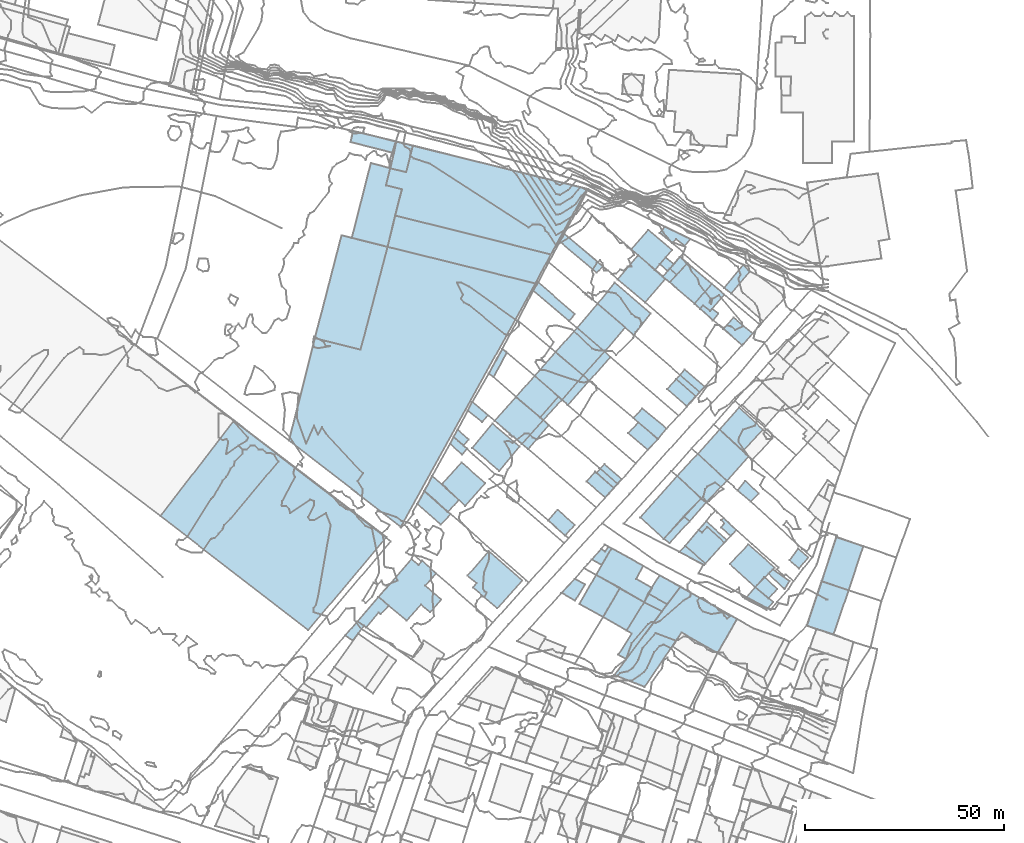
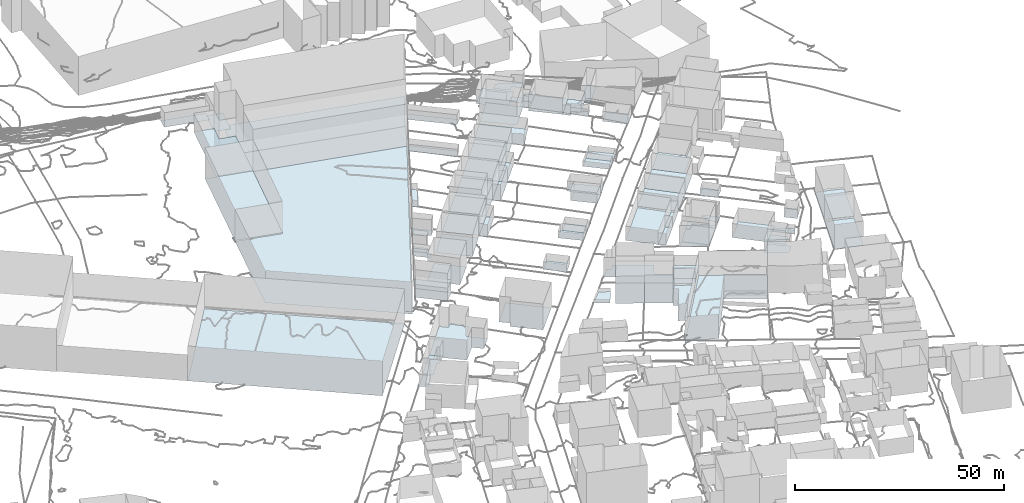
# Not in any storey, part 13 of 419: 77 footings.
"""IFC2X3 model written with IfcOpenShell, lengths in metres."""

from ifc_helpers import new_model, si_unit, frame, origin_with_axes, place, context, subcontext, project, faceted_brep, element, save


model = new_model("IFC2X3")

# Units and contexts
model_context = context("Model", 3, precision=1e-05, world=origin_with_axes())
body_context = subcontext(model_context, "Body", "Model", "MODEL_VIEW")
ifc_project = project(units=[si_unit("AREAUNIT", "SQUARE_METRE"), si_unit("LENGTHUNIT", "METRE")], contexts=[model_context])

# Footings
footing_1_placement = place(None, frame((943.8920204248, 250.5976909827, 79.4043981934), z_axis=(0.0, 0.0, 1.0), x_axis=(1.0, 0.0, 0.0)))
element("IfcFooting", 1, at=footing_1_placement, Name="Sol 0", PredefinedType="STRIP_FOOTING", context=body_context, shape_type="Brep", body=[
    faceted_brep([(0.8999999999, -0.6000000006, 0.0), (0.0, 0.0, 0.0), (1.8999999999, 2.2000000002, 0.0), (7.1, -2.5, 0.0), (6.5, -3.2000000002, 0.0), (2.2, 0.7999999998, 0.0)], [[[0, 1, 2]], [[3, 4, 5]], [[5, 0, 2]], [[2, 3, 5]]]),
])
footing_2_placement = place(None, frame((950.2920204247, 311.5976909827, 77.1379985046), z_axis=(0.0, 0.0, 1.0), x_axis=(1.0, 0.0, 0.0)))
element("IfcFooting", 2, at=footing_2_placement, Name="Sol 0", PredefinedType="STRIP_FOOTING", context=body_context, shape_type="Brep", body=[
    faceted_brep([(0.0, 0.0, 0.0), (4.9, 5.7999999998, 0.0), (6.5, 4.0999999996, 0.0), (1.8, -1.4000000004, 0.0)], [[[0, 1, 2]], [[2, 3, 0]]]),
])
footing_3_placement = place(None, frame((909.3920204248, 234.7976909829, 79.4479989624), z_axis=(0.0, 0.0, 1.0), x_axis=(1.0, 0.0, 0.0)))
element("IfcFooting", 3, at=footing_3_placement, Name="Sol 0", PredefinedType="STRIP_FOOTING", context=body_context, shape_type="Brep", body=[
    faceted_brep([(0.0, 0.0, 0.0), (3.2999999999, 3.5, 0.0), (5.8999999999, 2.0999999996, 0.0), (3.3999999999, -2.0, 0.0)], [[[0, 1, 2]], [[2, 3, 0]]]),
])
footing_4_placement = place(None, frame((922.6920204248, 214.0976909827, 76.1770995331), z_axis=(0.0, 0.0, 1.0), x_axis=(1.0, 0.0, 0.0)))
element("IfcFooting", 4, at=footing_4_placement, Name="Sol 0", PredefinedType="STRIP_FOOTING", context=body_context, shape_type="Brep", body=[
    faceted_brep([(16.6, 22.2000000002, 0.0), (30.9, 14.0999999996, 0.0), (26.0, 5.5, 0.0), (7.6, -3.0, 0.0), (0.0, 0.0, 0.0), (16.9, 10.7000000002, 0.0)], [[[0, 1, 2]], [[3, 4, 0]], [[0, 2, 5]], [[5, 3, 0]]]),
])
footing_5_placement = place(None, frame((971.1920204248, 226.4976909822, 78.6313998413), z_axis=(0.0, 0.0, 1.0), x_axis=(1.0, 0.0, 0.0)))
element("IfcFooting", 5, at=footing_5_placement, Name="Sol 0", PredefinedType="STRIP_FOOTING", context=body_context, shape_type="Brep", body=[
    faceted_brep([(6.7000000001, -2.1999999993, 0.0), (0.0, 0.0, 0.0), (3.7000000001, 11.2000000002, 0.0), (10.5, 8.9000000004, 0.0)], [[[0, 1, 2]], [[2, 3, 0]]]),
])
footing_6_placement = place(None, frame((974.8920204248, 237.6976909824, 79.1500015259), z_axis=(0.0, 0.0, 1.0), x_axis=(1.0, 0.0, 0.0)))
element("IfcFooting", 6, at=footing_6_placement, Name="Sol 0", PredefinedType="STRIP_FOOTING", context=body_context, shape_type="Brep", body=[
    faceted_brep([(6.7999999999, -2.2999999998, 0.0), (0.0, 0.0, 0.0), (3.7, 11.1000000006, 0.0), (10.5, 8.7999999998, 0.0)], [[[0, 1, 2]], [[2, 3, 0]]]),
])
footing_7_placement = place(None, frame((865.1920204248, 337.3976909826, 75.976000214), z_axis=(0.0, 0.0, 1.0), x_axis=(1.0, 0.0, 0.0)))
element("IfcFooting", 7, at=footing_7_placement, Name="Sol 0", PredefinedType="STRIP_FOOTING", context=body_context, shape_type="Brep", body=[
    faceted_brep([(0.0, 0.0, 0.0), (1.1, 4.2999999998, 0.0), (5.1, 3.2999999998, 0.0), (41.5, -17.4000000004, 0.0), (2.3, -7.5999999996, 0.0), (4.0, -1.0, 0.0), (6.8, 10.0, 0.0), (50.6, -0.9000000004, 0.0)], [[[0, 1, 2]], [[3, 4, 5]], [[6, 7, 3]], [[5, 0, 2]], [[2, 6, 3]], [[3, 5, 2]]]),
])
footing_8_placement = place(None, frame((923.4920204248, 313.6976909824, 79.7437991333), z_axis=(0.0, 0.0, 1.0), x_axis=(1.0, 0.0, 0.0)))
element("IfcFooting", 8, at=footing_8_placement, Name="Sol 0", PredefinedType="STRIP_FOOTING", context=body_context, shape_type="Brep", body=[
    faceted_brep([(0.0, 0.0, 0.0), (5.2, 6.1000000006, 0.0), (12.0, 0.1000000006, 0.0), (6.9, -5.7999999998, 0.0)], [[[0, 1, 2]], [[2, 3, 0]]]),
])
footing_9_placement = place(None, frame((944.2920204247, 306.2976909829, 79.112399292), z_axis=(0.0, 0.0, 1.0), x_axis=(1.0, 0.0, 0.0)))
element("IfcFooting", 9, at=footing_9_placement, Name="Sol 0", PredefinedType="STRIP_FOOTING", context=body_context, shape_type="Brep", body=[
    faceted_brep([(2.5, -0.5, 0.0), (3.0, 0.0, 0.0), (4.6000000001, -1.2000000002, 0.0), (0.0, 0.0, 0.0), (0.7000000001, 0.8999999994, 0.0), (3.2000000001, -2.9000000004, 0.0)], [[[0, 1, 2]], [[3, 4, 0]], [[2, 5, 3]], [[3, 0, 2]]]),
])
footing_10_placement = place(None, frame((885.6920204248, 239.0976909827, 79.6380020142), z_axis=(0.0, 0.0, 1.0), x_axis=(1.0, 0.0, 0.0)))
element("IfcFooting", 10, at=footing_10_placement, Name="Sol 0", PredefinedType="STRIP_FOOTING", context=body_context, shape_type="Brep", body=[
    faceted_brep([(0.0, 0.0, 0.0), (5.4, 6.2000000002, 0.0), (13.8, -1.2000000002, 0.0), (7.5, -8.2000000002, 0.0), (1.4, -3.0, 0.0), (2.3, -1.9000000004, 0.0)], [[[0, 1, 2]], [[3, 4, 5]], [[5, 0, 2]], [[2, 3, 5]]]),
])
footing_11_placement = place(None, frame((915.6920204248, 262.7976909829, 79.3039978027), z_axis=(0.0, 0.0, 1.0), x_axis=(1.0, 0.0, 0.0)))
element("IfcFooting", 11, at=footing_11_placement, Name="Sol 0", PredefinedType="STRIP_FOOTING", context=body_context, shape_type="Brep", body=[
    faceted_brep([(2.2000000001, 2.5, 0.0), (6.8, -1.6000000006, 0.0), (4.7000000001, -4.0, 0.0), (0.0, 0.0, 0.0)], [[[0, 1, 2]], [[2, 3, 0]]]),
])
footing_12_placement = place(None, frame((935.9920204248, 286.0976909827, 79.0081993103), z_axis=(0.0, 0.0, 1.0), x_axis=(1.0, 0.0, 0.0)))
element("IfcFooting", 12, at=footing_12_placement, Name="Sol 0", PredefinedType="STRIP_FOOTING", context=body_context, shape_type="Brep", body=[
    faceted_brep([(2.2999999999, 2.5, 0.0), (7.2, -1.7999999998, 0.0), (4.9, -4.2999999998, 0.0), (0.0, 0.0, 0.0)], [[[0, 1, 2]], [[2, 3, 0]]]),
])
footing_13_placement = place(None, frame((857.9920204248, 227.5976909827, 81.0899978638), z_axis=(0.0, 0.0, 1.0), x_axis=(1.0, 0.0, 0.0)))
element("IfcFooting", 13, at=footing_13_placement, Name="Sol 0", PredefinedType="STRIP_FOOTING", context=body_context, shape_type="Brep", body=[
    faceted_brep([(5.2999999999, 6.0999999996, 0.0), (7.9, 4.0, 0.0), (5.7999999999, 1.7999999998, 0.0), (2.2, -1.5, 0.0), (0.0, 0.0, 0.0), (5.2999999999, 2.2000000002, 0.0)], [[[0, 1, 2]], [[3, 4, 0]], [[0, 2, 5]], [[5, 3, 0]]]),
])
footing_14_placement = place(None, frame((873.0920204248, 257.1976909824, 80.2699981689), z_axis=(0.0, 0.0, 1.0), x_axis=(1.0, 0.0, 0.0)))
element("IfcFooting", 14, at=footing_14_placement, Name="Sol 0", PredefinedType="STRIP_FOOTING", context=body_context, shape_type="Brep", body=[
    faceted_brep([(0.0, 0.0, 0.0), (1.8, 3.2000000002, 0.0), (8.4, -2.5999999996, 0.0), (5.9, -5.2000000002, 0.0)], [[[0, 1, 2]], [[2, 3, 0]]]),
])
footing_15_placement = place(None, frame((808.3920204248, 254.0976909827, 80.3899993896), z_axis=(0.0, 0.0, 1.0), x_axis=(1.0, 0.0, 0.0)))
element("IfcFooting", 15, at=footing_15_placement, Name="Sol 0", PredefinedType="STRIP_FOOTING", context=body_context, shape_type="Brep", body=[
    faceted_brep([(0.0, 0.0, 0.0), (18.5, 24.0999999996, 0.0), (56.8999999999, -5.2999999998, 0.0), (37.2, -28.7000000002, 0.0)], [[[0, 1, 2]], [[2, 3, 0]]]),
])
footing_16_placement = place(None, frame((938.9920204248, 245.0976909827, 79.3228012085), z_axis=(0.0, 0.0, 1.0), x_axis=(1.0, 0.0, 0.0)))
element("IfcFooting", 16, at=footing_16_placement, Name="Sol 0", PredefinedType="STRIP_FOOTING", context=body_context, shape_type="Brep", body=[
    faceted_brep([(6.2999999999, -3.2999999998, 0.0), (0.0, 0.0, 0.0), (1.5, 1.5, 0.0), (6.6, -2.9000000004, 0.0)], [[[0, 1, 2]], [[2, 3, 0]]]),
])
footing_17_placement = place(None, frame((934.0920204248, 317.5976909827, 79.4200027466), z_axis=(0.0, 0.0, 1.0), x_axis=(1.0, 0.0, 0.0)))
element("IfcFooting", 17, at=footing_17_placement, Name="Sol 0", PredefinedType="STRIP_FOOTING", context=body_context, shape_type="Brep", body=[
    faceted_brep([(0.0, 0.0, 0.0), (1.5, 1.5999999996, 0.0), (3.5, 0.0, 0.0), (2.0, -1.7999999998, 0.0)], [[[0, 1, 2]], [[2, 3, 0]]]),
])
footing_18_placement = place(None, frame((913.8920204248, 231.9976909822, 79.4660003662), z_axis=(0.0, 0.0, 1.0), x_axis=(1.0, 0.0, 0.0)))
element("IfcFooting", 18, at=footing_18_placement, Name="Sol 0", PredefinedType="STRIP_FOOTING", context=body_context, shape_type="Brep", body=[
    faceted_brep([(10.2, 4.0, 0.0), (6.0, -3.2999999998, 0.0), (0.0, 0.0, 0.0), (4.2, 7.3000000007, 0.0)], [[[0, 1, 2]], [[2, 3, 0]]]),
])
footing_19_placement = place(None, frame((949.1920204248, 275.8976909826, 79.6199989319), z_axis=(0.0, 0.0, 1.0), x_axis=(1.0, 0.0, 0.0)))
element("IfcFooting", 19, at=footing_19_placement, Name="Sol 0", PredefinedType="STRIP_FOOTING", context=body_context, shape_type="Brep", body=[
    faceted_brep([(5.9, -5.4000000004, 0.0), (0.0, 0.0, 0.0), (4.9, 5.5, 0.0), (10.9, 0.0, 0.0)], [[[0, 1, 2]], [[2, 3, 0]]]),
])
footing_20_placement = place(None, frame((907.8920204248, 295.3976909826, 79.9370018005), z_axis=(0.0, 0.0, 1.0), x_axis=(1.0, 0.0, 0.0)))
element("IfcFooting", 20, at=footing_20_placement, Name="Sol 0", PredefinedType="STRIP_FOOTING", context=body_context, shape_type="Brep", body=[
    faceted_brep([(0.0, 0.0, 0.0), (5.3999999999, 6.0999999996, 0.0), (12.2999999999, 0.0999999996, 0.0), (6.8999999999, -5.9000000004, 0.0)], [[[0, 1, 2]], [[2, 3, 0]]]),
])
footing_21_placement = place(None, frame((865.5920204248, 321.8976909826, 80.3578001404), z_axis=(0.0, 0.0, 1.0), x_axis=(1.0, 0.0, 0.0)))
element("IfcFooting", 21, at=footing_21_placement, Name="Sol 0", PredefinedType="STRIP_FOOTING", context=body_context, shape_type="Brep", body=[
    faceted_brep([(0.0, 0.0, 0.0), (1.9, 7.9000000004, 0.0), (41.1, -1.9000000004, 0.0), (37.2, -9.2000000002, 0.0)], [[[0, 1, 2]], [[2, 3, 0]]]),
])
footing_22_placement = place(None, frame((955.5920204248, 233.2976909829, 78.8300018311), z_axis=(0.0, 0.0, 1.0), x_axis=(1.0, 0.0, 0.0)))
element("IfcFooting", 22, at=footing_22_placement, Name="Sol 0", PredefinedType="STRIP_FOOTING", context=body_context, shape_type="Brep", body=[
    faceted_brep([(5.4, -2.8000000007, 0.0), (0.0, 0.0, 0.0), (2.6, 2.8999999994, 0.0), (7.1, -0.8000000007, 0.0)], [[[0, 1, 2]], [[2, 3, 0]]]),
])
footing_23_placement = place(None, frame((943.6920204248, 269.7976909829, 79.72599823), z_axis=(0.0, 0.0, 1.0), x_axis=(1.0, 0.0, 0.0)))
element("IfcFooting", 23, at=footing_23_placement, Name="Sol 0", PredefinedType="STRIP_FOOTING", context=body_context, shape_type="Brep", body=[
    faceted_brep([(7.3, -6.8000000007, 0.0), (0.0, 0.0, 0.0), (5.5, 6.0999999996, 0.0), (12.8, -0.7000000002, 0.0)], [[[0, 1, 2]], [[2, 3, 0]]]),
])
footing_24_placement = place(None, frame((892.4920204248, 278.0976909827, 79.9392015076), z_axis=(0.0, 0.0, 1.0), x_axis=(1.0, 0.0, 0.0)))
element("IfcFooting", 24, at=footing_24_placement, Name="Sol 0", PredefinedType="STRIP_FOOTING", context=body_context, shape_type="Brep", body=[
    faceted_brep([(0.0, 0.0, 0.0), (5.4, 6.0, 0.0), (12.2999999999, 0.2000000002, 0.0), (6.9, -5.7999999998, 0.0)], [[[0, 1, 2]], [[2, 3, 0]]]),
])
footing_25_placement = place(None, frame((926.8920204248, 321.2976909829, 79.1452018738), z_axis=(0.0, 0.0, 1.0), x_axis=(1.0, 0.0, 0.0)))
element("IfcFooting", 25, at=footing_25_placement, Name="Sol 0", PredefinedType="STRIP_FOOTING", context=body_context, shape_type="Brep", body=[
    faceted_brep([(6.0, -5.2000000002, 0.0), (0.0, 0.0, 0.0), (4.2999999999, 4.8999999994, 0.0), (10.2999999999, -0.2000000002, 0.0)], [[[0, 1, 2]], [[2, 3, 0]]]),
])
footing_26_placement = place(None, frame((936.6920204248, 316.3976909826, 78.9909980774), z_axis=(0.0, 0.0, 1.0), x_axis=(1.0, 0.0, 0.0)))
element("IfcFooting", 26, at=footing_26_placement, Name="Sol 0", PredefinedType="STRIP_FOOTING", context=body_context, shape_type="Brep", body=[
    faceted_brep([(0.0, 0.0, 0.0), (2.5, 3.0, 0.0), (4.4, 1.4000000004, 0.0), (1.7000000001, -1.5, 0.0)], [[[0, 1, 2]], [[2, 3, 0]]]),
])
footing_27_placement = place(None, frame((926.1920204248, 274.9976909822, 79.1666029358), z_axis=(0.0, 0.0, 1.0), x_axis=(1.0, 0.0, 0.0)))
element("IfcFooting", 27, at=footing_27_placement, Name="Sol 0", PredefinedType="STRIP_FOOTING", context=body_context, shape_type="Brep", body=[
    faceted_brep([(2.5, 2.7000000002, 0.0), (7.5, -1.5, 0.0), (4.9, -4.1999999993, 0.0), (0.0, 0.0, 0.0)], [[[0, 1, 2]], [[2, 3, 0]]]),
])
footing_28_placement = place(None, frame((961.4920204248, 239.5976909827, 79.2879989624), z_axis=(0.0, 0.0, 1.0), x_axis=(1.0, 0.0, 0.0)))
element("IfcFooting", 28, at=footing_28_placement, Name="Sol 0", PredefinedType="STRIP_FOOTING", context=body_context, shape_type="Brep", body=[
    faceted_brep([(0.0, 0.0, 0.0), (1.1, 1.0999999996, 0.0), (5.2999999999, -1.9000000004, 0.0), (4.1, -3.9000000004, 0.0)], [[[0, 1, 2]], [[2, 3, 0]]]),
])
footing_29_placement = place(None, frame((935.0920204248, 248.3976909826, 79.2480003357), z_axis=(0.0, 0.0, 1.0), x_axis=(1.0, 0.0, 0.0)))
element("IfcFooting", 29, at=footing_29_placement, Name="Sol 0", PredefinedType="STRIP_FOOTING", context=body_context, shape_type="Brep", body=[
    faceted_brep([(1.5, -1.0999999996, 0.0), (0.0, 0.0, 0.0), (5.0, 5.5999999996, 0.0), (6.5, 4.4000000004, 0.0)], [[[0, 1, 2]], [[2, 3, 0]]]),
])
footing_30_placement = place(None, frame((840.7920204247, 273.0976909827, 80.3578001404), z_axis=(0.0, 0.0, 1.0), x_axis=(1.0, 0.0, 0.0)))
element("IfcFooting", 30, at=footing_30_placement, Name="Sol 0", PredefinedType="STRIP_FOOTING", context=body_context, shape_type="Brep", body=[
    faceted_brep([(28.1000000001, -21.7000000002, 0.0), (0.0, 0.0, 0.0), (6.5, 25.7999999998, 0.0), (24.8, 48.7999999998, 0.0), (62.0, 39.5999999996, 0.0), (18.0, 22.8999999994, 0.0)], [[[0, 1, 2]], [[3, 4, 0]], [[0, 2, 5]], [[5, 3, 0]]]),
])
footing_31_placement = place(None, frame((966.7920204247, 242.9976909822, 79.511000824), z_axis=(0.0, 0.0, 1.0), x_axis=(1.0, 0.0, 0.0)))
element("IfcFooting", 31, at=footing_31_placement, Name="Sol 0", PredefinedType="STRIP_FOOTING", context=body_context, shape_type="Brep", body=[
    faceted_brep([(4.7000000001, 0.7000000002, 0.0), (2.4, -2.0999999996, 0.0), (0.0, 0.0, 0.0), (2.2000000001, 2.9000000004, 0.0)], [[[0, 1, 2]], [[2, 3, 0]]]),
])
footing_32_placement = place(None, frame((951.7920204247, 241.9976909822, 79.3996029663), z_axis=(0.0, 0.0, 1.0), x_axis=(1.0, 0.0, 0.0)))
element("IfcFooting", 32, at=footing_32_placement, Name="Sol 0", PredefinedType="STRIP_FOOTING", context=body_context, shape_type="Brep", body=[
    faceted_brep([(0.0, 0.0, 0.0), (4.6000000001, 5.0, 0.0), (11.3, -0.8999999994, 0.0), (6.4, -5.7999999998, 0.0)], [[[0, 1, 2]], [[2, 3, 0]]]),
])
footing_33_placement = place(None, frame((938.2920204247, 288.5976909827, 78.9566001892), z_axis=(0.0, 0.0, 1.0), x_axis=(1.0, 0.0, 0.0)))
element("IfcFooting", 33, at=footing_33_placement, Name="Sol 0", PredefinedType="STRIP_FOOTING", context=body_context, shape_type="Brep", body=[
    faceted_brep([(2.1000000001, 2.3999999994, 0.0), (7.1000000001, -1.9000000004, 0.0), (4.9, -4.2999999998, 0.0), (0.0, 0.0, 0.0)], [[[0, 1, 2]], [[2, 3, 0]]]),
])
footing_34_placement = place(None, frame((854.8920204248, 223.9976909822, 80.7520005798), z_axis=(0.0, 0.0, 1.0), x_axis=(1.0, 0.0, 0.0)))
element("IfcFooting", 34, at=footing_34_placement, Name="Sol 0", PredefinedType="STRIP_FOOTING", context=body_context, shape_type="Brep", body=[
    faceted_brep([(3.1, 3.6000000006, 0.0), (4.7999999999, 2.5, 0.0), (1.8999999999, -1.1999999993, 0.0), (0.0, 0.0, 0.0)], [[[0, 1, 2]], [[2, 3, 0]]]),
])
footing_35_placement = place(None, frame((930.1920204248, 232.3976909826, 79.1070014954), z_axis=(0.0, 0.0, 1.0), x_axis=(1.0, 0.0, 0.0)))
element("IfcFooting", 35, at=footing_35_placement, Name="Sol 0", PredefinedType="STRIP_FOOTING", context=body_context, shape_type="Brep", body=[
    faceted_brep([(1.0, 2.2000000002, 0.0), (5.8, -0.5, 0.0), (4.5, -2.2999999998, 0.0), (0.0, 0.0, 0.0)], [[[0, 1, 2]], [[2, 3, 0]]]),
])
footing_36_placement = place(None, frame((958.1920204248, 236.1976909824, 79.2257979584), z_axis=(0.0, 0.0, 1.0), x_axis=(1.0, 0.0, 0.0)))
element("IfcFooting", 36, at=footing_36_placement, Name="Sol 0", PredefinedType="STRIP_FOOTING", context=body_context, shape_type="Brep", body=[
    faceted_brep([(3.3, -2.8999999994, 0.0), (0.0, 0.0, 0.0), (2.2000000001, 2.6000000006, 0.0), (5.5, -0.3999999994, 0.0)], [[[0, 1, 2]], [[2, 3, 0]]]),
])
footing_37_placement = place(None, frame((949.5920204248, 251.1976909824, 79.6), z_axis=(0.0, 0.0, 1.0), x_axis=(1.0, 0.0, 0.0)))
element("IfcFooting", 37, at=footing_37_placement, Name="Sol 0", PredefinedType="STRIP_FOOTING", context=body_context, shape_type="Brep", body=[
    faceted_brep([(0.0, 1.9000000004, 0.0), (0.6, 2.4000000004, 0.0), (3.8, -0.5999999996, 0.0), (2.4, -2.0999999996, 0.0), (0.0, 0.0, 0.0), (0.8, 1.1000000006, 0.0)], [[[0, 1, 2]], [[3, 4, 5]], [[5, 0, 2]], [[2, 3, 5]]]),
])
footing_38_placement = place(None, frame((909.4920204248, 283.3976909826, 79.9668006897), z_axis=(0.0, 0.0, 1.0), x_axis=(1.0, 0.0, 0.0)))
element("IfcFooting", 38, at=footing_38_placement, Name="Sol 0", PredefinedType="STRIP_FOOTING", context=body_context, shape_type="Brep", body=[
    faceted_brep([(0.0, 0.0, 0.0), (5.2999999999, 6.0999999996, 0.0), (6.9, 4.7999999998, 0.0), (1.5, -1.2999999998, 0.0)], [[[0, 1, 2]], [[2, 3, 0]]]),
])
footing_39_placement = place(None, frame((953.6920204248, 260.5976909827, 79.7878010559), z_axis=(0.0, 0.0, 1.0), x_axis=(1.0, 0.0, 0.0)))
element("IfcFooting", 39, at=footing_39_placement, Name="Sol 0", PredefinedType="STRIP_FOOTING", context=body_context, shape_type="Brep", body=[
    faceted_brep([(3.3, -2.7999999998, 0.0), (0.0, 0.0, 0.0), (2.0, 2.3999999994, 0.0), (5.3, -0.7999999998, 0.0)], [[[0, 1, 2]], [[2, 3, 0]]]),
])
footing_40_placement = place(None, frame((899.3920204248, 272.2976909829, 79.9064004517), z_axis=(0.0, 0.0, 1.0), x_axis=(1.0, 0.0, 0.0)))
element("IfcFooting", 40, at=footing_40_placement, Name="Sol 0", PredefinedType="STRIP_FOOTING", context=body_context, shape_type="Brep", body=[
    faceted_brep([(0.0, 0.0, 0.0), (5.3999999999, 6.0, 0.0), (6.7999999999, 4.6999999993, 0.0), (1.6, -1.3000000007, 0.0)], [[[0, 1, 2]], [[2, 3, 0]]]),
])
footing_41_placement = place(None, frame((881.2920204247, 272.2976909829, 80.3136010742), z_axis=(0.0, 0.0, 1.0), x_axis=(1.0, 0.0, 0.0)))
element("IfcFooting", 41, at=footing_41_placement, Name="Sol 0", PredefinedType="STRIP_FOOTING", context=body_context, shape_type="Brep", body=[
    faceted_brep([(0.0, 0.0, 0.0), (0.9, 1.6999999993, 0.0), (4.3, -1.2000000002, 0.0), (3.1000000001, -2.7000000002, 0.0)], [[[0, 1, 2]], [[2, 3, 0]]]),
])
footing_42_placement = place(None, frame((891.0920204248, 289.9976909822, 80.6671013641), z_axis=(0.0, 0.0, 1.0), x_axis=(1.0, 0.0, 0.0)))
element("IfcFooting", 42, at=footing_42_placement, Name="Sol 0", PredefinedType="STRIP_FOOTING", context=body_context, shape_type="Brep", body=[
    faceted_brep([(0.0, 0.0, 0.0), (3.4, 6.2000000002, 0.0), (4.5, 5.3000000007, 0.0), (1.2, -0.8999999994, 0.0)], [[[0, 1, 2]], [[2, 3, 0]]]),
])
footing_43_placement = place(None, frame((885.7920204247, 280.6976909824, 80.0627999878), z_axis=(0.0, 0.0, 1.0), x_axis=(1.0, 0.0, 0.0)))
element("IfcFooting", 43, at=footing_43_placement, Name="Sol 0", PredefinedType="STRIP_FOOTING", context=body_context, shape_type="Brep", body=[
    faceted_brep([(0.0, 0.0, 0.0), (1.1000000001, 2.2000000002, 0.0), (5.1000000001, -1.2000000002, 0.0), (3.6000000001, -2.8999999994, 0.0)], [[[0, 1, 2]], [[2, 3, 0]]]),
])
footing_44_placement = place(None, frame((908.9920204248, 323.1976909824, 79.6230010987), z_axis=(0.0, 0.0, 1.0), x_axis=(1.0, 0.0, 0.0)))
element("IfcFooting", 44, at=footing_44_placement, Name="Sol 0", PredefinedType="STRIP_FOOTING", context=body_context, shape_type="Brep", body=[
    faceted_brep([(0.0, 0.0, 0.0), (1.1, 2.0, 0.0), (10.7999999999, -6.2000000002, 0.0), (9.2, -7.7999999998, 0.0)], [[[0, 1, 2]], [[2, 3, 0]]]),
])
footing_45_placement = place(None, frame((916.9920204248, 243.1976909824, 79.308001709), z_axis=(0.0, 0.0, 1.0), x_axis=(1.0, 0.0, 0.0)))
element("IfcFooting", 45, at=footing_45_placement, Name="Sol 0", PredefinedType="STRIP_FOOTING", context=body_context, shape_type="Brep", body=[
    faceted_brep([(5.0, 2.7999999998, 0.0), (2.5, -1.3999999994, 0.0), (0.0, 0.0, 0.0), (3.4, 2.0, 0.0), (4.2, 3.2000000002, 0.0), (2.4, 2.6000000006, 0.0)], [[[0, 1, 2]], [[3, 4, 0]], [[2, 5, 3]], [[3, 0, 2]]]),
])
footing_46_placement = place(None, frame((940.0920204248, 253.9976909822, 79.3659988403), z_axis=(0.0, 0.0, 1.0), x_axis=(1.0, 0.0, 0.0)))
element("IfcFooting", 46, at=footing_46_placement, Name="Sol 0", PredefinedType="STRIP_FOOTING", context=body_context, shape_type="Brep", body=[
    faceted_brep([(0.0, 0.0, 0.0), (4.4, 4.5, 0.0), (5.7, 3.5, 0.0), (1.5, -1.1999999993, 0.0)], [[[0, 1, 2]], [[2, 3, 0]]]),
])
footing_47_placement = place(None, frame((914.7920204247, 289.4976909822, 79.9668006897), z_axis=(0.0, 0.0, 1.0), x_axis=(1.0, 0.0, 0.0)))
element("IfcFooting", 47, at=footing_47_placement, Name="Sol 0", PredefinedType="STRIP_FOOTING", context=body_context, shape_type="Brep", body=[
    faceted_brep([(1.6000000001, -1.2999999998, 0.0), (0.0, 0.0, 0.0), (5.4, 6.0, 0.0), (6.9, 4.7000000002, 0.0)], [[[0, 1, 2]], [[2, 3, 0]]]),
])
footing_48_placement = place(None, frame((903.9920204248, 278.9976909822, 80.158001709), z_axis=(0.0, 0.0, 1.0), x_axis=(1.0, 0.0, 0.0)))
element("IfcFooting", 48, at=footing_48_placement, Name="Sol 0", PredefinedType="STRIP_FOOTING", context=body_context, shape_type="Brep", body=[
    faceted_brep([(4.6, 5.2000000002, 0.0), (5.5, 4.4000000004, 0.0), (0.7999999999, -0.6999999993, 0.0), (0.0, 0.0, 0.0)], [[[0, 1, 2]], [[2, 3, 0]]]),
])
footing_49_placement = place(None, frame((856.5920204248, 324.1976909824, 80.7059997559), z_axis=(0.0, 0.0, 1.0), x_axis=(1.0, 0.0, 0.0)))
element("IfcFooting", 49, at=footing_49_placement, Name="Sol 0", PredefinedType="STRIP_FOOTING", context=body_context, shape_type="Brep", body=[
    faceted_brep([(12.6, 12.2000000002, 0.0), (9.0, -2.2999999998, 0.0), (0.0, 0.0, 0.0), (4.8, 18.7999999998, 0.0), (9.7, 17.5, 0.0), (8.6, 13.2000000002, 0.0)], [[[0, 1, 2]], [[3, 4, 5]], [[5, 0, 2]], [[2, 3, 5]]]),
])
footing_50_placement = place(None, frame((919.8920204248, 228.6976909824, 79.4340026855), z_axis=(0.0, 0.0, 1.0), x_axis=(1.0, 0.0, 0.0)))
element("IfcFooting", 50, at=footing_50_placement, Name="Sol 0", PredefinedType="STRIP_FOOTING", context=body_context, shape_type="Brep", body=[
    faceted_brep([(5.8999999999, -3.3999999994, 0.0), (0.0, 0.0, 0.0), (4.2, 7.2999999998, 0.0), (10.2999999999, 3.7000000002, 0.0)], [[[0, 1, 2]], [[2, 3, 0]]]),
])
footing_51_placement = place(None, frame((866.2920204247, 341.6976909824, 79.8180023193), z_axis=(0.0, 0.0, 1.0), x_axis=(1.0, 0.0, 0.0)))
element("IfcFooting", 51, at=footing_51_placement, Name="Sol 0", PredefinedType="STRIP_FOOTING", context=body_context, shape_type="Brep", body=[
    faceted_brep([(4.0, -1.0, 0.0), (0.0, 0.0, 0.0), (0.9, 3.7999999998, 0.0), (1.5, 6.7000000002, 0.0), (5.7000000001, 5.7000000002, 0.0)], [[[0, 1, 2]], [[3, 4, 0]], [[0, 2, 3]]]),
])
footing_52_placement = place(None, frame((856.2920204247, 348.2976909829, 80.6039993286), z_axis=(0.0, 0.0, 1.0), x_axis=(1.0, 0.0, 0.0)))
element("IfcFooting", 52, at=footing_52_placement, Name="Sol 0", PredefinedType="STRIP_FOOTING", context=body_context, shape_type="Brep", body=[
    faceted_brep([(0.0, 0.0, 0.0), (0.6000000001, 2.7999999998, 0.0), (11.5, 0.0999999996, 0.0), (10.9, -2.8000000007, 0.0)], [[[0, 1, 2]], [[2, 3, 0]]]),
])
footing_53_placement = place(None, frame((874.8920204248, 260.3976909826, 80.0907972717), z_axis=(0.0, 0.0, 1.0), x_axis=(1.0, 0.0, 0.0)))
element("IfcFooting", 53, at=footing_53_placement, Name="Sol 0", PredefinedType="STRIP_FOOTING", context=body_context, shape_type="Brep", body=[
    faceted_brep([(0.0, 0.0, 0.0), (1.8999999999, 3.7999999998, 0.0), (8.6, -2.2000000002, 0.0), (5.8999999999, -5.2999999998, 0.0)], [[[0, 1, 2]], [[2, 3, 0]]]),
])
footing_54_placement = place(None, frame((942.8920204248, 307.5976909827, 78.6759994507), z_axis=(0.0, 0.0, 1.0), x_axis=(1.0, 0.0, 0.0)))
element("IfcFooting", 54, at=footing_54_placement, Name="Sol 0", PredefinedType="STRIP_FOOTING", context=body_context, shape_type="Brep", body=[
    faceted_brep([(0.0, 0.0, 0.0), (4.2999999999, 5.0, 0.0), (7.5, 2.2999999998, 0.0), (2.1, -0.4000000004, 0.0), (1.3999999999, -1.2999999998, 0.0), (3.8999999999, -1.7999999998, 0.0)], [[[0, 1, 2]], [[3, 4, 0]], [[2, 5, 3]], [[3, 0, 2]]]),
])
footing_55_placement = place(None, frame((940.4920204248, 246.5976909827, 79.3300018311), z_axis=(0.0, 0.0, 1.0), x_axis=(1.0, 0.0, 0.0)))
element("IfcFooting", 55, at=footing_55_placement, Name="Sol 0", PredefinedType="STRIP_FOOTING", context=body_context, shape_type="Brep", body=[
    faceted_brep([(5.1, -4.4000000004, 0.0), (0.0, 0.0, 0.0), (3.4, 4.0, 0.0), (5.6, 4.7999999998, 0.0), (9.9, 0.7999999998, 0.0), (4.2999999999, 3.3999999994, 0.0)], [[[0, 1, 2]], [[3, 4, 0]], [[0, 2, 5]], [[5, 3, 0]]]),
])
footing_56_placement = place(None, frame((934.1920204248, 325.3976909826, 78.4769989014), z_axis=(0.0, 0.0, 1.0), x_axis=(1.0, 0.0, 0.0)))
element("IfcFooting", 56, at=footing_56_placement, Name="Sol 0", PredefinedType="STRIP_FOOTING", context=body_context, shape_type="Brep", body=[
    faceted_brep([(0.0, 0.0, 0.0), (1.2000000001, 1.5999999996, 0.0), (7.6, -1.5, 0.0), (4.0, -1.5, 0.0), (3.0, -2.5, 0.0), (6.2000000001, -3.2000000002, 0.0)], [[[0, 1, 2]], [[3, 4, 0]], [[2, 5, 3]], [[3, 0, 2]]]),
])
footing_57_placement = place(None, frame((882.1920204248, 273.9976909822, 80.2499984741), z_axis=(0.0, 0.0, 1.0), x_axis=(1.0, 0.0, 0.0)))
element("IfcFooting", 57, at=footing_57_placement, Name="Sol 0", PredefinedType="STRIP_FOOTING", context=body_context, shape_type="Brep", body=[
    faceted_brep([(0.0, 0.0, 0.0), (1.0, 1.9000000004, 0.0), (3.8, -0.5999999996, 0.0), (2.5, -2.0999999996, 0.0)], [[[0, 1, 2]], [[2, 3, 0]]]),
])
footing_58_placement = place(None, frame((931.1920204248, 234.5976909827, 79.0538980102), z_axis=(0.0, 0.0, 1.0), x_axis=(1.0, 0.0, 0.0)))
element("IfcFooting", 58, at=footing_58_placement, Name="Sol 0", PredefinedType="STRIP_FOOTING", context=body_context, shape_type="Brep", body=[
    faceted_brep([(2.9, 4.5999999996, 0.0), (8.1, 1.7000000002, 0.0), (4.8, -2.7000000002, 0.0), (0.0, 0.0, 0.0)], [[[0, 1, 2]], [[2, 3, 0]]]),
])
footing_59_placement = place(None, frame((918.0920204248, 239.2976909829, 79.3015979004), z_axis=(0.0, 0.0, 1.0), x_axis=(1.0, 0.0, 0.0)))
element("IfcFooting", 59, at=footing_59_placement, Name="Sol 0", PredefinedType="STRIP_FOOTING", context=body_context, shape_type="Brep", body=[
    faceted_brep([(14.1, -3.3000000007, 0.0), (12.1, -6.9000000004, 0.0), (0.0, 0.0, 0.0), (3.9, 6.6999999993, 0.0), (11.9, 2.2999999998, 0.0), (10.1, -1.0, 0.0)], [[[0, 1, 2]], [[3, 4, 5]], [[5, 0, 2]], [[2, 3, 5]]]),
])
footing_60_placement = place(None, frame((923.6920204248, 219.1976909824, 78.7404975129), z_axis=(0.0, 0.0, 1.0), x_axis=(1.0, 0.0, 0.0)))
element("IfcFooting", 60, at=footing_60_placement, Name="Sol 0", PredefinedType="STRIP_FOOTING", context=body_context, shape_type="Brep", body=[
    faceted_brep([(11.0, 10.9000000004, 0.0), (2.0, -1.0999999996, 0.0), (0.0, 0.0, 0.0), (2.1, 6.1000000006, 0.0), (6.5, 13.2000000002, 0.0), (3.4, 5.2999999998, 0.0)], [[[0, 1, 2]], [[3, 4, 0]], [[0, 2, 5]], [[5, 3, 0]]]),
])
footing_61_placement = place(None, frame((938.4920204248, 264.1976909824, 79.72599823), z_axis=(0.0, 0.0, 1.0), x_axis=(1.0, 0.0, 0.0)))
element("IfcFooting", 61, at=footing_61_placement, Name="Sol 0", PredefinedType="STRIP_FOOTING", context=body_context, shape_type="Brep", body=[
    faceted_brep([(7.2999999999, -6.7000000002, 0.0), (0.0, 0.0, 0.0), (5.2, 5.6000000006, 0.0), (12.5, -1.2000000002, 0.0)], [[[0, 1, 2]], [[2, 3, 0]]]),
])
footing_62_placement = place(None, frame((929.1920204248, 253.7976909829, 79.3199996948), z_axis=(0.0, 0.0, 1.0), x_axis=(1.0, 0.0, 0.0)))
element("IfcFooting", 62, at=footing_62_placement, Name="Sol 0", PredefinedType="STRIP_FOOTING", context=body_context, shape_type="Brep", body=[
    faceted_brep([(0.0, 0.0, 0.0), (9.3, 10.3999999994, 0.0), (15.3, 4.6999999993, 0.0), (5.9, -5.4000000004, 0.0)], [[[0, 1, 2]], [[2, 3, 0]]]),
])
footing_63_placement = place(None, frame((902.5920204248, 289.3976909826, 79.9370018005), z_axis=(0.0, 0.0, 1.0), x_axis=(1.0, 0.0, 0.0)))
element("IfcFooting", 63, at=footing_63_placement, Name="Sol 0", PredefinedType="STRIP_FOOTING", context=body_context, shape_type="Brep", body=[
    faceted_brep([(0.0, 0.0, 0.0), (5.3, 6.0, 0.0), (12.2, 0.0999999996, 0.0), (6.9, -6.0, 0.0)], [[[0, 1, 2]], [[2, 3, 0]]]),
])
footing_64_placement = place(None, frame((913.2920204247, 301.4976909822, 79.9740013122), z_axis=(0.0, 0.0, 1.0), x_axis=(1.0, 0.0, 0.0)))
element("IfcFooting", 64, at=footing_64_placement, Name="Sol 0", PredefinedType="STRIP_FOOTING", context=body_context, shape_type="Brep", body=[
    faceted_brep([(6.9, -6.0, 0.0), (0.0, 0.0, 0.0), (5.2000000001, 6.1000000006, 0.0), (12.1000000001, 0.1000000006, 0.0)], [[[0, 1, 2]], [[2, 3, 0]]]),
])
footing_65_placement = place(None, frame((897.8920204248, 284.0976909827, 80.158001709), z_axis=(0.0, 0.0, 1.0), x_axis=(1.0, 0.0, 0.0)))
element("IfcFooting", 65, at=footing_65_placement, Name="Sol 0", PredefinedType="STRIP_FOOTING", context=body_context, shape_type="Brep", body=[
    faceted_brep([(0.0, 0.0, 0.0), (4.7, 5.2999999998, 0.0), (10.7, 0.0999999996, 0.0), (6.1, -5.1000000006, 0.0)], [[[0, 1, 2]], [[2, 3, 0]]]),
])
footing_66_placement = place(None, frame((886.8920204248, 271.2976909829, 79.9304003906), z_axis=(0.0, 0.0, 1.0), x_axis=(1.0, 0.0, 0.0)))
element("IfcFooting", 66, at=footing_66_placement, Name="Sol 0", PredefinedType="STRIP_FOOTING", context=body_context, shape_type="Brep", body=[
    faceted_brep([(11.8999999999, 0.2999999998, 0.0), (6.7999999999, -5.8000000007, 0.0), (0.0, 0.0, 0.0), (5.1, 6.0999999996, 0.0)], [[[0, 1, 2]], [[2, 3, 0]]]),
])
footing_67_placement = place(None, frame((918.4920204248, 307.5976909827, 79.7623983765), z_axis=(0.0, 0.0, 1.0), x_axis=(1.0, 0.0, 0.0)))
element("IfcFooting", 67, at=footing_67_placement, Name="Sol 0", PredefinedType="STRIP_FOOTING", context=body_context, shape_type="Brep", body=[
    faceted_brep([(13.2999999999, -2.5, 0.0), (9.1, -7.9000000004, 0.0), (0.0, 0.0, 0.0), (4.2999999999, 5.2999999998, 0.0)], [[[0, 1, 2]], [[2, 3, 0]]]),
])
footing_68_placement = place(None, frame((902.2920204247, 310.8976909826, 80.1476022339), z_axis=(0.0, 0.0, 1.0), x_axis=(1.0, 0.0, 0.0)))
element("IfcFooting", 68, at=footing_68_placement, Name="Sol 0", PredefinedType="STRIP_FOOTING", context=body_context, shape_type="Brep", body=[
    faceted_brep([(0.0, 0.0, 0.0), (1.2000000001, 2.0999999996, 0.0), (10.4, -5.9000000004, 0.0), (9.0, -7.7000000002, 0.0)], [[[0, 1, 2]], [[2, 3, 0]]]),
])
footing_69_placement = place(None, frame((847.2920204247, 298.8976909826, 80.5991983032), z_axis=(0.0, 0.0, 1.0), x_axis=(1.0, 0.0, 0.0)))
element("IfcFooting", 69, at=footing_69_placement, Name="Sol 0", PredefinedType="STRIP_FOOTING", context=body_context, shape_type="Brep", body=[
    faceted_brep([(11.5, -2.9000000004, 0.0), (0.0, 0.0, 0.0), (6.7000000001, 25.9000000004, 0.0), (18.3, 23.0, 0.0)], [[[0, 1, 2]], [[2, 3, 0]]]),
])
footing_70_placement = place(None, frame((934.8920204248, 314.3976909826, 79.4939979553), z_axis=(0.0, 0.0, 1.0), x_axis=(1.0, 0.0, 0.0)))
element("IfcFooting", 70, at=footing_70_placement, Name="Sol 0", PredefinedType="STRIP_FOOTING", context=body_context, shape_type="Brep", body=[
    faceted_brep([(0.0, 0.0, 0.0), (1.7999999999, 2.0, 0.0), (3.5, 0.5, 0.0), (1.7, -1.4000000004, 0.0)], [[[0, 1, 2]], [[2, 3, 0]]]),
])
footing_71_placement = place(None, frame((936.5920204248, 312.9976909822, 78.6872006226), z_axis=(0.0, 0.0, 1.0), x_axis=(1.0, 0.0, 0.0)))
element("IfcFooting", 71, at=footing_71_placement, Name="Sol 0", PredefinedType="STRIP_FOOTING", context=body_context, shape_type="Brep", body=[
    faceted_brep([(0.0, 0.0, 0.0), (4.5, 4.8000000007, 0.0), (10.6, -0.3999999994, 0.0), (6.3, -5.3999999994, 0.0)], [[[0, 1, 2]], [[2, 3, 0]]]),
])
footing_72_placement = place(None, frame((879.2920204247, 262.1976909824, 80.0089987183), z_axis=(0.0, 0.0, 1.0), x_axis=(1.0, 0.0, 0.0)))
element("IfcFooting", 72, at=footing_72_placement, Name="Sol 0", PredefinedType="STRIP_FOOTING", context=body_context, shape_type="Brep", body=[
    faceted_brep([(5.8, -5.5, 0.0), (0.0, 0.0, 0.0), (4.9, 5.4000000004, 0.0), (10.9, 0.2000000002, 0.0)], [[[0, 1, 2]], [[2, 3, 0]]]),
])
footing_73_placement = place(None, frame((927.4920204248, 278.7976909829, 79.1666029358), z_axis=(0.0, 0.0, 1.0), x_axis=(1.0, 0.0, 0.0)))
element("IfcFooting", 73, at=footing_73_placement, Name="Sol 0", PredefinedType="STRIP_FOOTING", context=body_context, shape_type="Brep", body=[
    faceted_brep([(2.2, 2.3999999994, 0.0), (8.2999999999, -2.6000000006, 0.0), (6.2, -5.3000000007, 0.0), (0.0, 0.0, 0.0)], [[[0, 1, 2]], [[2, 3, 0]]]),
])
footing_74_placement = place(None, frame((918.1920204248, 264.9976909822, 79.2470031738), z_axis=(0.0, 0.0, 1.0), x_axis=(1.0, 0.0, 0.0)))
element("IfcFooting", 74, at=footing_74_placement, Name="Sol 0", PredefinedType="STRIP_FOOTING", context=body_context, shape_type="Brep", body=[
    faceted_brep([(2.0, 2.2000000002, 0.0), (6.3, -1.5999999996, 0.0), (4.3, -3.7999999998, 0.0), (0.0, 0.0, 0.0)], [[[0, 1, 2]], [[2, 3, 0]]]),
])
footing_75_placement = place(None, frame((905.9920204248, 252.9976909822, 79.4715997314), z_axis=(0.0, 0.0, 1.0), x_axis=(1.0, 0.0, 0.0)))
element("IfcFooting", 75, at=footing_75_placement, Name="Sol 0", PredefinedType="STRIP_FOOTING", context=body_context, shape_type="Brep", body=[
    faceted_brep([(6.7, -1.0999999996, 0.0), (4.2999999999, -3.7999999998, 0.0), (0.0, 0.0, 0.0), (2.4, 2.7000000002, 0.0)], [[[0, 1, 2]], [[2, 3, 0]]]),
])
footing_76_placement = place(None, frame((950.1920204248, 301.2976909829, 77.9925981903), z_axis=(0.0, 0.0, 1.0), x_axis=(1.0, 0.0, 0.0)))
element("IfcFooting", 76, at=footing_76_placement, Name="Sol 0", PredefinedType="STRIP_FOOTING", context=body_context, shape_type="Brep", body=[
    faceted_brep([(2.5, 2.7999999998, 0.0), (7.3, -1.2000000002, 0.0), (4.7000000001, -4.2000000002, 0.0), (0.0, 0.0, 0.0)], [[[0, 1, 2]], [[2, 3, 0]]]),
])
footing_77_placement = place(None, frame((863.2920204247, 233.6976909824, 80.7084017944), z_axis=(0.0, 0.0, 1.0), x_axis=(1.0, 0.0, 0.0)))
element("IfcFooting", 77, at=footing_77_placement, Name="Sol 0", PredefinedType="STRIP_FOOTING", context=body_context, shape_type="Brep", body=[
    faceted_brep([(11.0, 9.2000000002, 0.0), (14.5, 5.9000000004, 0.0), (11.8, 2.9000000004, 0.0), (0.0, 0.0, 0.0), (8.3, 9.6000000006, 0.0), (10.1000000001, 8.1000000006, 0.0), (10.7000000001, -1.8999999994, 0.0), (7.1000000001, -5.8999999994, 0.0), (15.8, -0.5999999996, 0.0), (13.0, -3.7999999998, 0.0)], [[[0, 1, 2]], [[3, 4, 5]], [[6, 7, 3]], [[8, 9, 6]], [[5, 0, 2]], [[6, 3, 5]], [[2, 8, 6]], [[6, 5, 2]]]),
])

save(model, "model.ifc")
